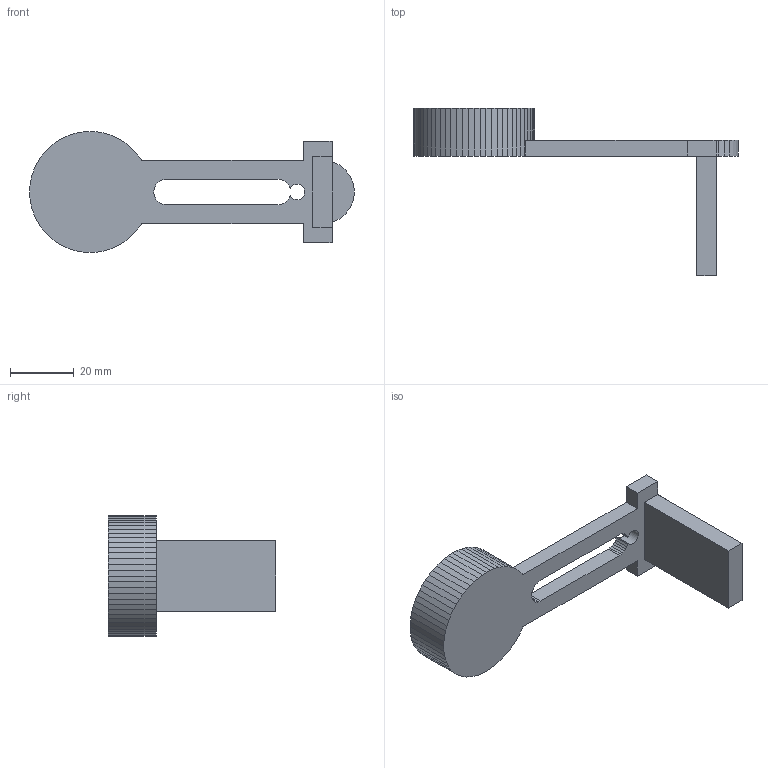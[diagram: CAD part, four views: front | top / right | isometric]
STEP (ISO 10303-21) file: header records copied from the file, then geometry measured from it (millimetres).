
FILE_DESCRIPTION(('Open CASCADE Model'),'2;1');
FILE_NAME('Open CASCADE Shape Model','2026-10-16T00:29:52',('Author'),( 'Open CASCADE'),'Open CASCADE STEP processor 7.9','Open CASCADE 7.9' ,'Unknown');
FILE_SCHEMA(('AUTOMOTIVE_DESIGN { 1 0 10303 214 1 1 1 1 }'));
Length unit declared in the file: millimetre
Products named in the file (1): Open CASCADE STEP translator 7.9 5
Bounding box: 102 x 52.5 x 38 mm (x, y, z)
Volume: 22274.6 mm3; surface area: 10260 mm2
Topology: 1 solids, 1 shells, 134 faces, 384 edges, 256 vertices
Faces by surface type: plane 129, cylinder 5
Full cylindrical faces by diameter (mm): 3.2 x3, 24.5 x1
Entity records: 9180 total; most frequent: CARTESIAN_POINT 1712, DIRECTION 1288, LINE 993, VECTOR 993, ORIENTED_EDGE 768, PCURVE 768, DEFINITIONAL_REPRESENTATION 768, EDGE_CURVE 384
